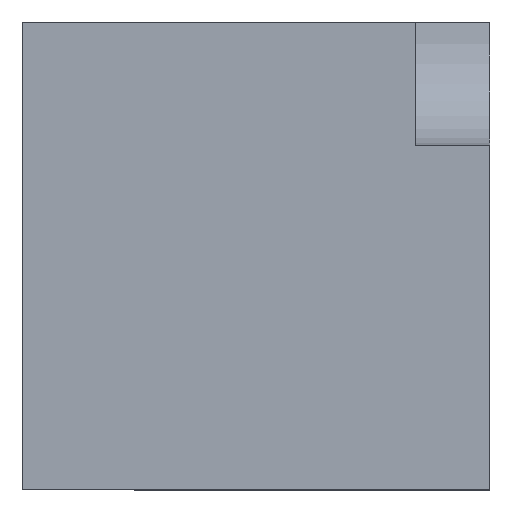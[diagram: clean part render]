
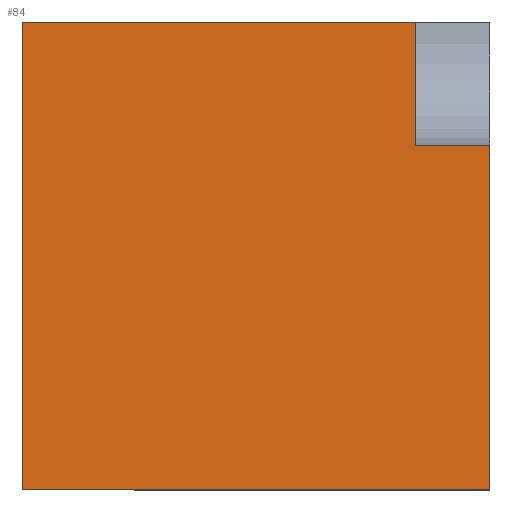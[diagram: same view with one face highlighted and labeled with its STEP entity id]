
A CAD part, top view. The second image highlights one B-rep face of the part: STEP entity #84.
In plain terms, the highlighted planar face has unit normal (0, 0, 1).
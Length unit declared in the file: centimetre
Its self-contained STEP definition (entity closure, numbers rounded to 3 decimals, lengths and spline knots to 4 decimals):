
#27 = CARTESIAN_POINT ( 'NONE',  ( 841.403, 736.3832, 1000. ) ) ;
#41 = VECTOR ( 'NONE', #778, 100. ) ;
#44 = LINE ( 'NONE', #27, #632 ) ;
#51 = VECTOR ( 'NONE', #234, 100. ) ;
#84 = ADVANCED_FACE ( 'NONE', ( #265 ), #659, .T. ) ;
#87 = CARTESIAN_POINT ( 'NONE',  ( 841.403, 0., 1000. ) ) ;
#95 = AXIS2_PLACEMENT_3D ( 'NONE', #982, #893, #407 ) ;
#105 = VECTOR ( 'NONE', #1040, 100. ) ;
#110 = DIRECTION ( 'NONE',  ( 1., 0., 0. ) ) ;
#130 = CARTESIAN_POINT ( 'NONE',  ( 0., 0., 1000. ) ) ;
#162 = VECTOR ( 'NONE', #294, 100. ) ;
#164 = VECTOR ( 'NONE', #208, 100. ) ;
#178 = CARTESIAN_POINT ( 'NONE',  ( 1000., 1000., 1000. ) ) ;
#204 = LINE ( 'NONE', #438, #162 ) ;
#208 = DIRECTION ( 'NONE',  ( 1., 0., 0. ) ) ;
#234 = DIRECTION ( 'NONE',  ( -1., 0., 0. ) ) ;
#240 = EDGE_CURVE ( 'NONE', #310, #258, #204, .T. ) ;
#258 = VERTEX_POINT ( 'NONE', #130 ) ;
#265 = FACE_OUTER_BOUND ( 'NONE', #473, .T. ) ;
#277 = CARTESIAN_POINT ( 'NONE',  ( 0., 0., 1000. ) ) ;
#294 = DIRECTION ( 'NONE',  ( 0., -1., 0. ) ) ;
#295 = ORIENTED_EDGE ( 'NONE', *, *, #240, .T. ) ;
#308 = EDGE_CURVE ( 'NONE', #258, #467, #675, .T. ) ;
#310 = VERTEX_POINT ( 'NONE', #520 ) ;
#320 = CARTESIAN_POINT ( 'NONE',  ( 1000., 0., 1000. ) ) ;
#337 = EDGE_CURVE ( 'NONE', #470, #310, #1043, .T. ) ;
#342 = CARTESIAN_POINT ( 'NONE',  ( 841.403, 1000., 1000. ) ) ;
#392 = ORIENTED_EDGE ( 'NONE', *, *, #337, .T. ) ;
#407 = DIRECTION ( 'NONE',  ( 1., 0., 0. ) ) ;
#438 = CARTESIAN_POINT ( 'NONE',  ( 0., 1000., 1000. ) ) ;
#467 = VERTEX_POINT ( 'NONE', #320 ) ;
#470 = VERTEX_POINT ( 'NONE', #342 ) ;
#473 = EDGE_LOOP ( 'NONE', ( #539, #955, #392, #295, #499, #885 ) ) ;
#477 = VERTEX_POINT ( 'NONE', #638 ) ;
#499 = ORIENTED_EDGE ( 'NONE', *, *, #308, .T. ) ;
#518 = VERTEX_POINT ( 'NONE', #898 ) ;
#520 = CARTESIAN_POINT ( 'NONE',  ( 0., 1000., 1000. ) ) ;
#536 = LINE ( 'NONE', #178, #105 ) ;
#539 = ORIENTED_EDGE ( 'NONE', *, *, #980, .F. ) ;
#632 = VECTOR ( 'NONE', #110, 100. ) ;
#638 = CARTESIAN_POINT ( 'NONE',  ( 841.403, 736.3832, 1000. ) ) ;
#659 = PLANE ( 'NONE',  #95 ) ;
#675 = LINE ( 'NONE', #277, #164 ) ;
#778 = DIRECTION ( 'NONE',  ( 0., 1., 0. ) ) ;
#832 = EDGE_CURVE ( 'NONE', #467, #518, #536, .T. ) ;
#856 = EDGE_CURVE ( 'NONE', #477, #470, #971, .T. ) ;
#871 = CARTESIAN_POINT ( 'NONE',  ( 0., 1000., 1000. ) ) ;
#885 = ORIENTED_EDGE ( 'NONE', *, *, #832, .T. ) ;
#893 = DIRECTION ( 'NONE',  ( 0., 0., 1. ) ) ;
#898 = CARTESIAN_POINT ( 'NONE',  ( 1000., 736.3832, 1000. ) ) ;
#955 = ORIENTED_EDGE ( 'NONE', *, *, #856, .T. ) ;
#971 = LINE ( 'NONE', #87, #41 ) ;
#980 = EDGE_CURVE ( 'NONE', #477, #518, #44, .T. ) ;
#982 = CARTESIAN_POINT ( 'NONE',  ( 0., 0., 1000. ) ) ;
#1040 = DIRECTION ( 'NONE',  ( 0., 1., 0. ) ) ;
#1043 = LINE ( 'NONE', #871, #51 ) ;
